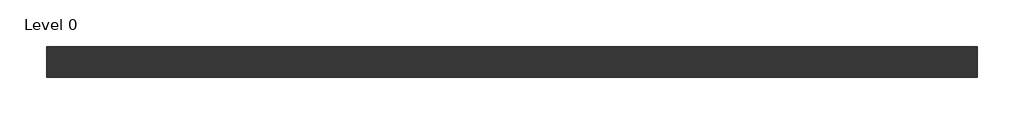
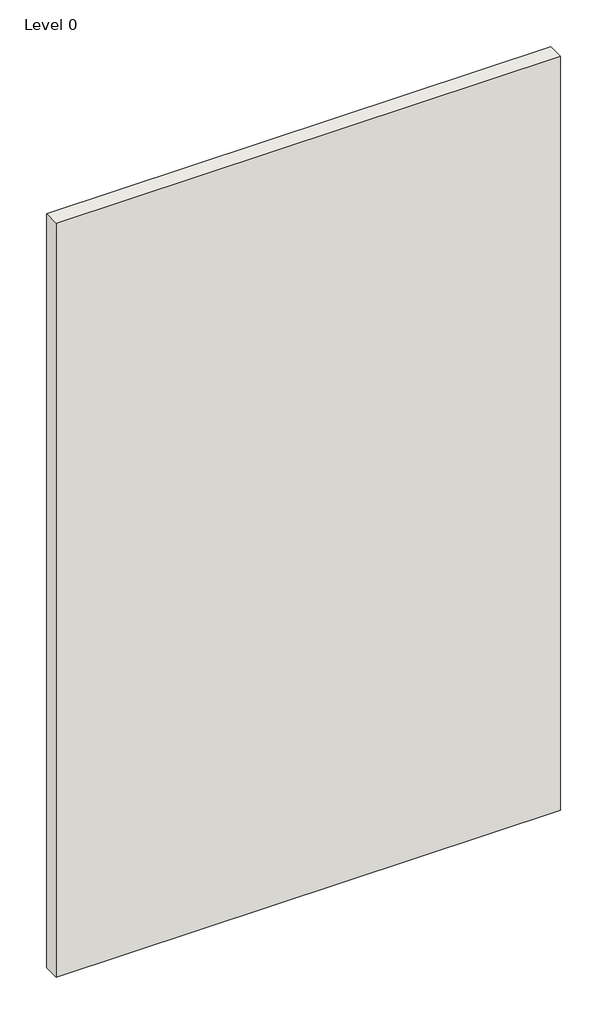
# One storey: 1 wall.
"""IFC4 building model written with IfcOpenShell, lengths in millimetres."""

import ifcopenshell
import ifcopenshell.guid

model = None  # the IFC model being written
_history = None  # IfcOwnerHistory: only IFC2X3 demands one
_inside = {}  # id of a spatial element -> (the spatial element, [elements in it])
_under = {}  # id of a project, library or spatial element -> (it, [spatial elements below it])
_declared = {}  # id of a project -> (the project, [libraries it declares])
_typed = {}  # id of a type object -> (the type object, [elements of that type])
_made_of = {}  # id of a material, layer set ... -> (it, [elements and type objects made of it])


def new_model(schema):
    """Start an empty IFC model of exactly this schema.

    Asked for "IFC4X3", IfcOpenShell would pick the latest addendum, in which some entities
    have other attributes; the version numbers below select the first issue.
    IFC2X3 requires an IfcOwnerHistory on every rooted entity: one is made here for all.
    """
    global model, _history
    if schema == "IFC4X3":
        model = ifcopenshell.file(schema_version=(4, 3, 0, 0))
    else:
        model = ifcopenshell.file(schema=schema)
    _inside.clear()
    _under.clear()
    _declared.clear()
    _typed.clear()
    _made_of.clear()
    _history = None
    if model.schema == "IFC2X3":
        org = make("IfcOrganization", Name="unknown")
        user = make(
            "IfcPersonAndOrganization",
            ThePerson=make("IfcPerson", FamilyName="unknown"),
            TheOrganization=org,
        )
        app = make(
            "IfcApplication",
            ApplicationDeveloper=org,
            Version="unknown",
            ApplicationFullName="unknown",
            ApplicationIdentifier="unknown",
        )
        _history = make(
            "IfcOwnerHistory",
            OwningUser=user,
            OwningApplication=app,
            ChangeAction="ADDED",
            CreationDate=0,
        )
    return model


def make(cls, **values):
    """One entity of the class cls with the attributes given. An attribute that is None is left unset."""
    return model.create_entity(
        cls, **{name: value for name, value in values.items() if value is not None}
    )


def rooted(cls, **values):
    """An entity with a GlobalId (a new one), such as an element, a storey or a relation."""
    return make(cls, GlobalId=ifcopenshell.guid.new(), OwnerHistory=_history, **values)


def si_unit(unit_type, name, prefix=None):
    """IfcSIUnit, for example si_unit("LENGTHUNIT", "METRE", prefix="MILLI")."""
    return make("IfcSIUnit", UnitType=unit_type, Prefix=prefix, Name=name)


def assignment(units):
    """IfcUnitAssignment: the units of a project."""
    return None if units is None else make("IfcUnitAssignment", Units=units)


def point(xyz):
    """IfcCartesianPoint."""
    return None if xyz is None else make("IfcCartesianPoint", Coordinates=xyz)


def direction(xyz):
    """IfcDirection."""
    return None if xyz is None else make("IfcDirection", DirectionRatios=xyz)


def frame(location, z_axis=None, x_axis=None):
    """IfcAxis2Placement3D, a coordinate frame: its origin and axes. An axis left out is left unset."""
    return make(
        "IfcAxis2Placement3D",
        Location=point(location),
        Axis=direction(z_axis),
        RefDirection=direction(x_axis),
    )


def origin():
    """The frame at (0, 0, 0) with its axes left unset."""
    return frame((0.0, 0.0, 0.0))


def origin_with_axes():
    """The frame at (0, 0, 0) with the z axis (0, 0, 1) and the x axis (1, 0, 0) written out."""
    return frame((0.0, 0.0, 0.0), z_axis=(0.0, 0.0, 1.0), x_axis=(1.0, 0.0, 0.0))


def place(relative_to, where):
    """IfcLocalPlacement: puts the frame where relative to a parent placement (None: the world)."""
    return make(
        "IfcLocalPlacement", PlacementRelTo=relative_to, RelativePlacement=where
    )


def context(
    kind, dimensions, precision=None, world=None, true_north=None, identifier=None
):
    """IfcGeometricRepresentationContext, for example the 3D "Model" context."""
    return make(
        "IfcGeometricRepresentationContext",
        ContextIdentifier=identifier,
        ContextType=kind,
        CoordinateSpaceDimension=dimensions,
        Precision=precision,
        WorldCoordinateSystem=world,
        TrueNorth=true_north,
    )


def project(units=None, contexts=None):
    """IfcProject with its units and contexts."""
    return rooted(
        "IfcProject",
        Name="project",
        RepresentationContexts=contexts,
        UnitsInContext=assignment(units),
    )


def spatial(cls, under=None, at=None, **own):
    """A site, building, storey or space (cls), placed at a placement, below another one or the project."""
    s = rooted(cls, ObjectPlacement=at, **own)
    if under is not None:
        _under.setdefault(under.id(), (under, []))[1].append(s)
    return s


def polyline(points):
    """IfcPolyline through the points."""
    return make("IfcPolyline", Points=[point(p) for p in points])


def outline(outer, holes=None, kind="AREA"):
    """IfcArbitraryClosedProfileDef: a profile drawn as a closed curve; with holes, ...WithVoids."""
    if holes is None:
        return make("IfcArbitraryClosedProfileDef", ProfileType=kind, OuterCurve=outer)
    return make(
        "IfcArbitraryProfileDefWithVoids",
        ProfileType=kind,
        OuterCurve=outer,
        InnerCurves=holes,
    )


def extrude(swept, where, along, depth):
    """IfcExtrudedAreaSolid: the profile swept, set in the frame where, extruded along a direction by depth."""
    return make(
        "IfcExtrudedAreaSolid",
        SweptArea=swept,
        Position=where,
        ExtrudedDirection=direction(along),
        Depth=depth,
    )


def shape(context_of_items, identifier, shape_type, items):
    """IfcShapeRepresentation: the items that make up one representation, for example the "Body"."""
    return make(
        "IfcShapeRepresentation",
        ContextOfItems=context_of_items,
        RepresentationIdentifier=identifier,
        RepresentationType=shape_type,
        Items=items,
    )


def made_of(thing, what):
    """Note that an element or type object is made of a material, layer set ...; save() writes the relation."""
    if what is not None:
        _made_of.setdefault(what.id(), (what, []))[1].append(thing)
    return thing


def element(
    cls,
    number,
    at=None,
    inside=None,
    cuts=None,
    type_object=None,
    material=None,
    context=None,
    identifier="Body",
    shape_type=None,
    held_by="IfcProductDefinitionShape",
    body=None,
    shapes=None,
    **own,
):
    """One element of the class cls, such as IfcWall. Its Tag is "e" and its number.

    at: its placement. inside: the storey or other place that contains it. cuts: it is an
    opening in that element (IfcRelVoidsElement). A single representation is given by context,
    identifier, shape_type and body (its items); several are given by shapes. held_by: the class
    of the entity that holds the representations. save() writes the other relations.
    """
    e = rooted(cls, Tag="e%d" % number, ObjectPlacement=at, **own)
    if body is not None:
        shapes = [shape(context, identifier, shape_type, body)]
    if shapes is not None:
        e.Representation = make(held_by, Representations=shapes)
    if inside is not None:
        _inside.setdefault(inside.id(), (inside, []))[1].append(e)
    if cuts is not None:
        rooted(
            "IfcRelVoidsElement", RelatingBuildingElement=cuts, RelatedOpeningElement=e
        )
    if type_object is not None:
        _typed.setdefault(type_object.id(), (type_object, []))[1].append(e)
    return made_of(e, material)


def aggregate(whole, parts):
    """IfcRelAggregates: a whole, such as a stair, and the parts it consists of."""
    return rooted("IfcRelAggregates", RelatingObject=whole, RelatedObjects=parts)


def save(model, path):
    """Write the relations noted so far, then the file.

    IfcRelAggregates (storeys below a building ...), IfcRelContainedInSpatialStructure (elements
    in a storey), IfcRelDefinesByType, IfcRelAssociatesMaterial and IfcRelDeclares: one each for
    every whole, place, type object, material and project.
    """
    for whole, parts in _under.values():
        aggregate(whole, parts)
    for where, things in _inside.values():
        rooted(
            "IfcRelContainedInSpatialStructure",
            RelatedElements=things,
            RelatingStructure=where,
        )
    for kind, things in _typed.values():
        rooted("IfcRelDefinesByType", RelatedObjects=things, RelatingType=kind)
    for what, things in _made_of.values():
        rooted("IfcRelAssociatesMaterial", RelatedObjects=things, RelatingMaterial=what)
    for by, libraries in _declared.values():
        rooted("IfcRelDeclares", RelatingContext=by, RelatedDefinitions=libraries)
    model.write(path)


model = new_model("IFC4")

# Units and contexts
model_context = context("Model", 3, world=origin())
ifc_project = project(units=[si_unit("LENGTHUNIT", "METRE", prefix="MILLI")], contexts=[model_context])

# Site, building, storey
site = spatial("IfcSite", under=ifc_project)
building = spatial("IfcBuilding", under=site)
storey = spatial("IfcBuildingStorey", under=building, Name="Level 0", Elevation=0.0)

# Wall
placement = place(None, origin())
element("IfcWall", 1, ObjectType="Q606043 - GypWall Robust", at=placement, inside=storey, context=model_context, shape_type="SweptSolid", body=[
    extrude(outline(polyline([(1155.997948, 504.2669953), (-1944.002052, 504.2669953), (-1944.002052, 606.2669953), (1155.997948, 606.2669953), (1155.997948, 504.2669953)])), origin_with_axes(), (0.0, 0.0, 1.0), 4900.0),
])

save(model, "model.ifc")
